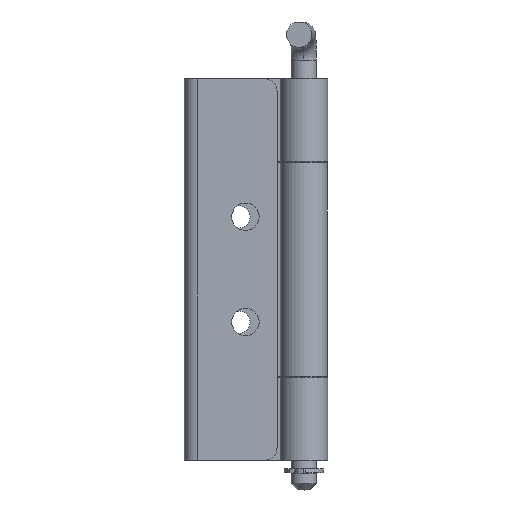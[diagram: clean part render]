
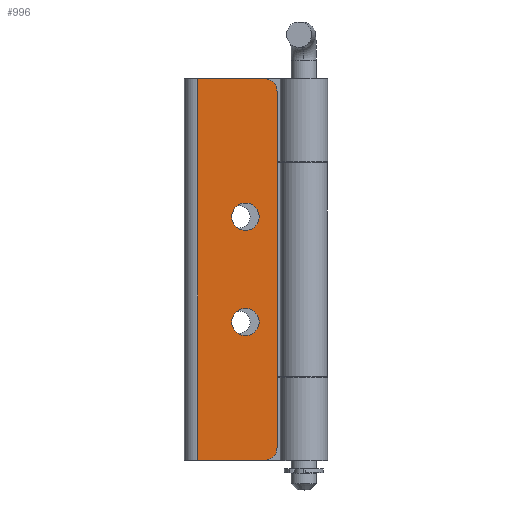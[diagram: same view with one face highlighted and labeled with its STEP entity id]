
A CAD part, top view. The second image highlights one B-rep face of the part: STEP entity #996.
In plain terms, the highlighted planar face has unit normal (0, 0, 1) as drawn and (1, 0, 0) by its records, which use the part's own axes.
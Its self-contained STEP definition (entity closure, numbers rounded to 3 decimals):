
#33 = DIRECTION ( 'NONE',  ( 0., 1., 0. ) ) ;
#71 = DIRECTION ( 'NONE',  ( 1., 0., 0. ) ) ;
#92 = CARTESIAN_POINT ( 'NONE',  ( 17.35, 24.044, 90.6 ) ) ;
#166 = VERTEX_POINT ( 'NONE', #2039 ) ;
#167 = DIRECTION ( 'NONE',  ( 0., 0., -1. ) ) ;
#187 = AXIS2_PLACEMENT_3D ( 'NONE', #2625, #71, #1359 ) ;
#217 = DIRECTION ( 'NONE',  ( 1., 0., 0. ) ) ;
#300 = CIRCLE ( 'NONE', #1811, 3.25 ) ;
#462 = CARTESIAN_POINT ( 'NONE',  ( 17.35, 46.044, 3. ) ) ;
#565 = AXIS2_PLACEMENT_3D ( 'NONE', #2730, #3248, #1961 ) ;
#583 = EDGE_CURVE ( 'NONE', #3086, #1530, #2505, .T. ) ;
#619 = VERTEX_POINT ( 'NONE', #2370 ) ;
#639 = VERTEX_POINT ( 'NONE', #2909 ) ;
#677 = DIRECTION ( 'NONE',  ( 0., 0., 1. ) ) ;
#751 = DIRECTION ( 'NONE',  ( 0., 0., -1. ) ) ;
#784 = AXIS2_PLACEMENT_3D ( 'NONE', #3216, #1627, #2185 ) ;
#880 = ORIENTED_EDGE ( 'NONE', *, *, #1414, .T. ) ;
#904 = EDGE_CURVE ( 'NONE', #166, #1723, #2593, .T. ) ;
#948 = VECTOR ( 'NONE', #167, 1000. ) ;
#996 = ADVANCED_FACE ( 'NONE', ( #2990, #2476, #1692 ), #1205, .F. ) ;
#1093 = CARTESIAN_POINT ( 'NONE',  ( 17.35, 43.044, 90.6 ) ) ;
#1098 = CARTESIAN_POINT ( 'NONE',  ( 17.35, 38.544, 57.8 ) ) ;
#1100 = DIRECTION ( 'NONE',  ( 0., 1., 0. ) ) ;
#1141 = VERTEX_POINT ( 'NONE', #1093 ) ;
#1162 = AXIS2_PLACEMENT_3D ( 'NONE', #2159, #2710, #677 ) ;
#1205 = PLANE ( 'NONE',  #565 ) ;
#1359 = DIRECTION ( 'NONE',  ( 0., 0., -1. ) ) ;
#1414 = EDGE_CURVE ( 'NONE', #1723, #2496, #2609, .T. ) ;
#1434 = ORIENTED_EDGE ( 'NONE', *, *, #2618, .F. ) ;
#1442 = ORIENTED_EDGE ( 'NONE', *, *, #904, .T. ) ;
#1493 = LINE ( 'NONE', #3277, #2514 ) ;
#1497 = CIRCLE ( 'NONE', #2073, 3.25 ) ;
#1499 = ORIENTED_EDGE ( 'NONE', *, *, #583, .F. ) ;
#1530 = VERTEX_POINT ( 'NONE', #2497 ) ;
#1532 = EDGE_CURVE ( 'NONE', #619, #2496, #1493, .T. ) ;
#1551 = VERTEX_POINT ( 'NONE', #1752 ) ;
#1627 = DIRECTION ( 'NONE',  ( 1., 0., 0. ) ) ;
#1692 = FACE_OUTER_BOUND ( 'NONE', #2541, .T. ) ;
#1702 = DIRECTION ( 'NONE',  ( 1., 0., 0. ) ) ;
#1723 = VERTEX_POINT ( 'NONE', #1866 ) ;
#1752 = CARTESIAN_POINT ( 'NONE',  ( 17.35, 38.544, 36.05 ) ) ;
#1766 = ORIENTED_EDGE ( 'NONE', *, *, #2386, .F. ) ;
#1769 = DIRECTION ( 'NONE',  ( 0., 0., -1. ) ) ;
#1811 = AXIS2_PLACEMENT_3D ( 'NONE', #2840, #217, #751 ) ;
#1855 = EDGE_CURVE ( 'NONE', #639, #1551, #2400, .T. ) ;
#1866 = CARTESIAN_POINT ( 'NONE',  ( 17.35, 43.044, 0. ) ) ;
#1883 = DIRECTION ( 'NONE',  ( 0., 0., -1. ) ) ;
#1925 = EDGE_CURVE ( 'NONE', #2864, #166, #1952, .T. ) ;
#1933 = LINE ( 'NONE', #92, #2250 ) ;
#1952 = LINE ( 'NONE', #2740, #948 ) ;
#1961 = DIRECTION ( 'NONE',  ( 0., 0., 1. ) ) ;
#2039 = CARTESIAN_POINT ( 'NONE',  ( 17.35, 27.244, 0. ) ) ;
#2044 = EDGE_LOOP ( 'NONE', ( #3333, #2431 ) ) ;
#2073 = AXIS2_PLACEMENT_3D ( 'NONE', #1098, #2655, #2904 ) ;
#2159 = CARTESIAN_POINT ( 'NONE',  ( 17.35, 43.044, 3. ) ) ;
#2164 = CARTESIAN_POINT ( 'NONE',  ( 17.35, 38.544, 61.05 ) ) ;
#2182 = VECTOR ( 'NONE', #33, 1000. ) ;
#2185 = DIRECTION ( 'NONE',  ( 0., 0., 1. ) ) ;
#2249 = CIRCLE ( 'NONE', #784, 3. ) ;
#2250 = VECTOR ( 'NONE', #1100, 1000. ) ;
#2301 = EDGE_CURVE ( 'NONE', #619, #1141, #2249, .T. ) ;
#2370 = CARTESIAN_POINT ( 'NONE',  ( 17.35, 46.044, 87.6 ) ) ;
#2386 = EDGE_CURVE ( 'NONE', #2864, #1141, #1933, .T. ) ;
#2400 = CIRCLE ( 'NONE', #2943, 3.25 ) ;
#2431 = ORIENTED_EDGE ( 'NONE', *, *, #2876, .F. ) ;
#2476 = FACE_BOUND ( 'NONE', #2826, .T. ) ;
#2491 = ORIENTED_EDGE ( 'NONE', *, *, #2301, .T. ) ;
#2496 = VERTEX_POINT ( 'NONE', #462 ) ;
#2497 = CARTESIAN_POINT ( 'NONE',  ( 17.35, 38.544, 54.55 ) ) ;
#2505 = CIRCLE ( 'NONE', #187, 3.25 ) ;
#2514 = VECTOR ( 'NONE', #1769, 1000. ) ;
#2541 = EDGE_LOOP ( 'NONE', ( #1442, #880, #2736, #2491, #1766, #3035 ) ) ;
#2574 = CARTESIAN_POINT ( 'NONE',  ( 17.35, 27.244, 90.6 ) ) ;
#2593 = LINE ( 'NONE', #2614, #2182 ) ;
#2609 = CIRCLE ( 'NONE', #1162, 3. ) ;
#2614 = CARTESIAN_POINT ( 'NONE',  ( 17.35, 24.044, 0. ) ) ;
#2618 = EDGE_CURVE ( 'NONE', #1530, #3086, #1497, .T. ) ;
#2625 = CARTESIAN_POINT ( 'NONE',  ( 17.35, 38.544, 57.8 ) ) ;
#2655 = DIRECTION ( 'NONE',  ( 1., 0., 0. ) ) ;
#2710 = DIRECTION ( 'NONE',  ( 1., 0., 0. ) ) ;
#2730 = CARTESIAN_POINT ( 'NONE',  ( 17.35, 24.044, 90.6 ) ) ;
#2736 = ORIENTED_EDGE ( 'NONE', *, *, #1532, .F. ) ;
#2740 = CARTESIAN_POINT ( 'NONE',  ( 17.35, 27.244, 90.6 ) ) ;
#2826 = EDGE_LOOP ( 'NONE', ( #1434, #1499 ) ) ;
#2840 = CARTESIAN_POINT ( 'NONE',  ( 17.35, 38.544, 32.8 ) ) ;
#2864 = VERTEX_POINT ( 'NONE', #2574 ) ;
#2876 = EDGE_CURVE ( 'NONE', #1551, #639, #300, .T. ) ;
#2904 = DIRECTION ( 'NONE',  ( 0., 0., -1. ) ) ;
#2909 = CARTESIAN_POINT ( 'NONE',  ( 17.35, 38.544, 29.55 ) ) ;
#2943 = AXIS2_PLACEMENT_3D ( 'NONE', #3241, #1702, #1883 ) ;
#2990 = FACE_BOUND ( 'NONE', #2044, .T. ) ;
#3035 = ORIENTED_EDGE ( 'NONE', *, *, #1925, .T. ) ;
#3086 = VERTEX_POINT ( 'NONE', #2164 ) ;
#3216 = CARTESIAN_POINT ( 'NONE',  ( 17.35, 43.044, 87.6 ) ) ;
#3241 = CARTESIAN_POINT ( 'NONE',  ( 17.35, 38.544, 32.8 ) ) ;
#3248 = DIRECTION ( 'NONE',  ( -1., 0., 0. ) ) ;
#3277 = CARTESIAN_POINT ( 'NONE',  ( 17.35, 46.044, 90.6 ) ) ;
#3333 = ORIENTED_EDGE ( 'NONE', *, *, #1855, .F. ) ;
